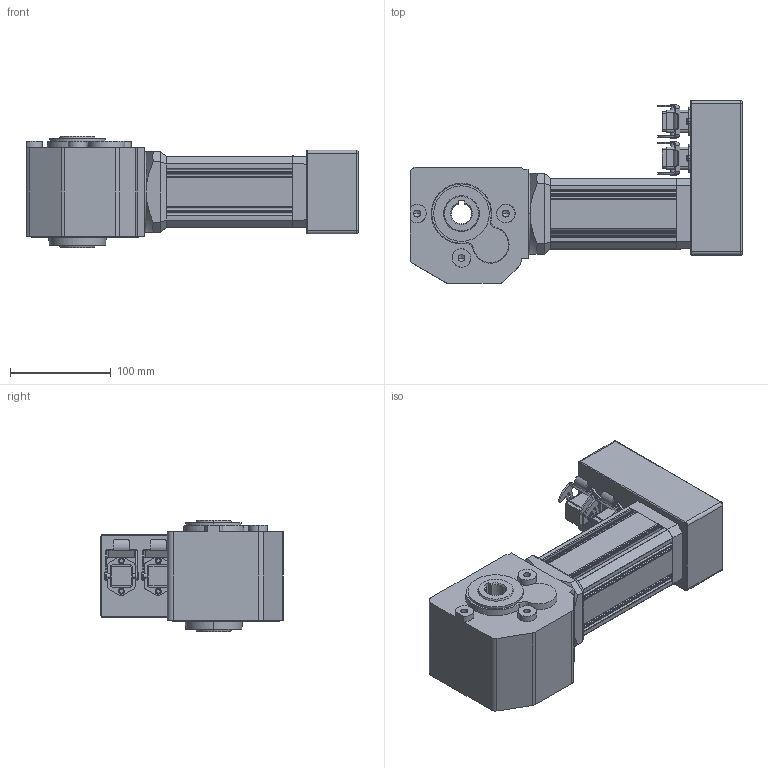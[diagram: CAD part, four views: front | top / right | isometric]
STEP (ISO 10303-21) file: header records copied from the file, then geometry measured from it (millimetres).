
FILE_DESCRIPTION(('OneSpaceDesigner STEP Export'),'2;1');
FILE_NAME('UECG323TH_ZB45_F.stp','2008-06-27T 8:32:23',(''),(''),'OneSpace Designer STEP processor (Jan. 2003) for AP214(CD)(Solid Model)','OneSpace Designer 12.01D 09-Jul-2004 (C) CoCreate Software GmbH','');
FILE_SCHEMA(('AUTOMOTIVE_DESIGN_CC2 {1 2 10303 214 -1 1 5 1}'));
Length unit declared in the file: millimetre
Products named in the file (2): UECG323TH_ZB45_F
Assembly tree (1 placements, depth 2):
  UECG323TH_ZB45_F
    UECG323TH_ZB45_F
Bounding box: 329 x 181 x 110 mm (x, y, z)
Volume: 2590635.8 mm3; surface area: 185584.4 mm2
Topology: 1 solids, 1 shells, 561 faces, 1491 edges, 961 vertices
Faces by surface type: cylinder 262, plane 240, torus 24, cone 20, bspline 15
Entity records: 25316 total; most frequent: CARTESIAN_POINT 12034, ORIENTED_EDGE 2970, DIRECTION 2536, EDGE_CURVE 1485, VERTEX_POINT 961, AXIS2_PLACEMENT_3D 874, VECTOR 788, LINE 788
